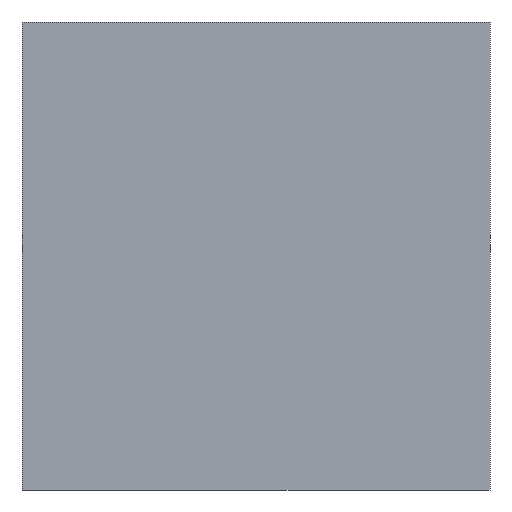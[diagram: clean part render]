
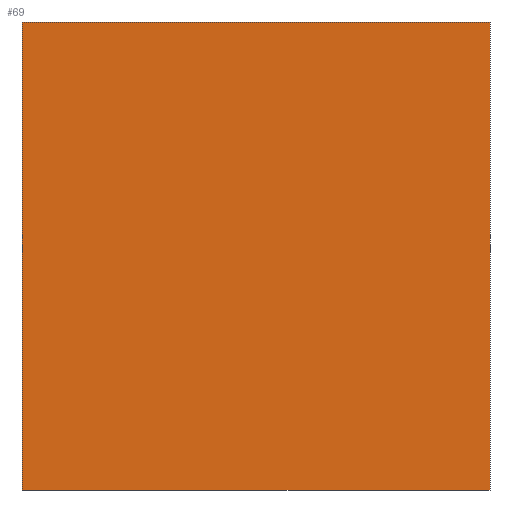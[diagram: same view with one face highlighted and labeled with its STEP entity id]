
A CAD part, front view. The second image highlights one B-rep face of the part: STEP entity #69.
In plain terms, the highlighted planar face has unit normal (0, -1, 0).
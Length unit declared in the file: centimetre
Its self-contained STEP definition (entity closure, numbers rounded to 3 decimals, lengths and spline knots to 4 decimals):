
#14 = EDGE_CURVE ( 'NONE', #295, #409, #190, .T. ) ;
#49 = CARTESIAN_POINT ( 'NONE',  ( 0., 0., 1000. ) ) ;
#51 = ORIENTED_EDGE ( 'NONE', *, *, #14, .T. ) ;
#69 = ADVANCED_FACE ( 'NONE', ( #311 ), #429, .F. ) ;
#83 = CARTESIAN_POINT ( 'NONE',  ( 0., 0., 1000. ) ) ;
#95 = ORIENTED_EDGE ( 'NONE', *, *, #200, .F. ) ;
#97 = VECTOR ( 'NONE', #164, 100. ) ;
#108 = CARTESIAN_POINT ( 'NONE',  ( 0., 0., 1000. ) ) ;
#129 = DIRECTION ( 'NONE',  ( 0., 0., -1. ) ) ;
#135 = ORIENTED_EDGE ( 'NONE', *, *, #420, .T. ) ;
#137 = ORIENTED_EDGE ( 'NONE', *, *, #456, .F. ) ;
#149 = AXIS2_PLACEMENT_3D ( 'NONE', #108, #306, #496 ) ;
#164 = DIRECTION ( 'NONE',  ( 0., 0., -1. ) ) ;
#174 = EDGE_LOOP ( 'NONE', ( #51, #95, #137, #135 ) ) ;
#190 = LINE ( 'NONE', #266, #318 ) ;
#200 = EDGE_CURVE ( 'NONE', #252, #409, #288, .T. ) ;
#222 = DIRECTION ( 'NONE',  ( 1., 0., 0. ) ) ;
#252 = VERTEX_POINT ( 'NONE', #495 ) ;
#266 = CARTESIAN_POINT ( 'NONE',  ( 0., 0., 0. ) ) ;
#288 = LINE ( 'NONE', #471, #97 ) ;
#295 = VERTEX_POINT ( 'NONE', #390 ) ;
#306 = DIRECTION ( 'NONE',  ( 0., 1., 0. ) ) ;
#311 = FACE_OUTER_BOUND ( 'NONE', #174, .T. ) ;
#318 = VECTOR ( 'NONE', #222, 100. ) ;
#324 = DIRECTION ( 'NONE',  ( 1., 0., 0. ) ) ;
#390 = CARTESIAN_POINT ( 'NONE',  ( 0., 0., 0. ) ) ;
#399 = VECTOR ( 'NONE', #129, 100. ) ;
#402 = LINE ( 'NONE', #83, #449 ) ;
#409 = VERTEX_POINT ( 'NONE', #478 ) ;
#410 = VERTEX_POINT ( 'NONE', #437 ) ;
#420 = EDGE_CURVE ( 'NONE', #410, #295, #441, .T. ) ;
#429 = PLANE ( 'NONE',  #149 ) ;
#437 = CARTESIAN_POINT ( 'NONE',  ( 0., 0., 1000. ) ) ;
#441 = LINE ( 'NONE', #49, #399 ) ;
#449 = VECTOR ( 'NONE', #324, 100. ) ;
#456 = EDGE_CURVE ( 'NONE', #410, #252, #402, .T. ) ;
#471 = CARTESIAN_POINT ( 'NONE',  ( 1000., 0., 1000. ) ) ;
#478 = CARTESIAN_POINT ( 'NONE',  ( 1000., 0., 0. ) ) ;
#495 = CARTESIAN_POINT ( 'NONE',  ( 1000., 0., 1000. ) ) ;
#496 = DIRECTION ( 'NONE',  ( 0., 0., 1. ) ) ;
